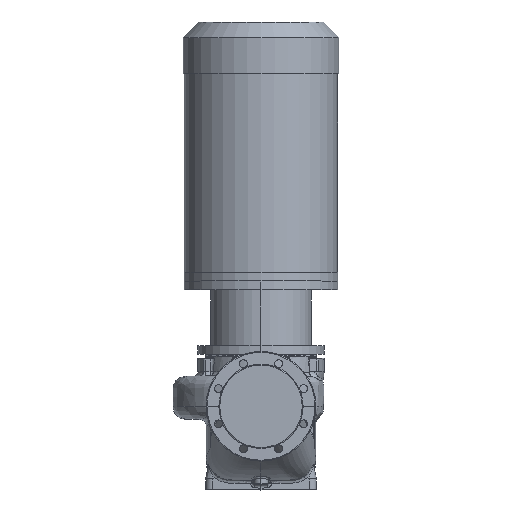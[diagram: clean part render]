
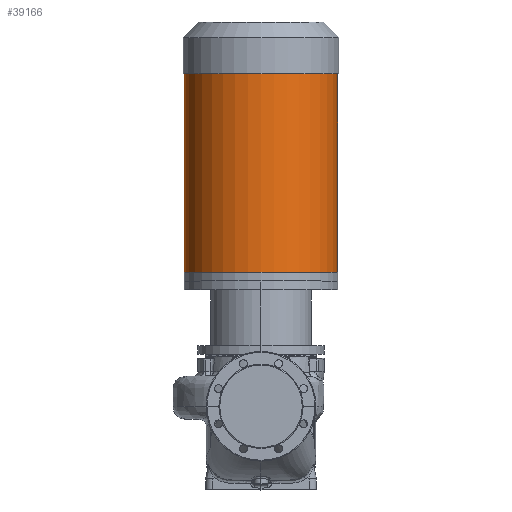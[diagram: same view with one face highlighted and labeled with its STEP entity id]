
A CAD part, top view. The second image highlights one B-rep face of the part: STEP entity #39166.
In plain terms, the highlighted cylindrical face has radius 174.5 mm (diameter 349 mm), a partial arc.
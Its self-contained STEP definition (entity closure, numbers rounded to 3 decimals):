
#31 = CARTESIAN_POINT ( 'NONE',  ( -174.5, 285.8, 0. ) ) ;
#192 = FACE_OUTER_BOUND ( 'NONE', #45321, .T. ) ;
#320 = ORIENTED_EDGE ( 'NONE', *, *, #25603, .F. ) ;
#3253 = LINE ( 'NONE', #31, #44242 ) ;
#4375 = CARTESIAN_POINT ( 'NONE',  ( 174.5, 305.8, 0. ) ) ;
#7132 = CARTESIAN_POINT ( 'NONE',  ( 174.5, 757.8, 0. ) ) ;
#9235 = VERTEX_POINT ( 'NONE', #29655 ) ;
#9436 = DIRECTION ( 'NONE',  ( 0., -1., 0. ) ) ;
#10882 = LINE ( 'NONE', #25033, #47429 ) ;
#17424 = VERTEX_POINT ( 'NONE', #7132 ) ;
#18461 = EDGE_CURVE ( 'NONE', #17424, #9235, #37529, .T. ) ;
#22086 = CARTESIAN_POINT ( 'NONE',  ( 0., 305.8, 0. ) ) ;
#24029 = CYLINDRICAL_SURFACE ( 'NONE', #39465, 174.5 ) ;
#24622 = DIRECTION ( 'NONE',  ( 0., -1., 0. ) ) ;
#25033 = CARTESIAN_POINT ( 'NONE',  ( 174.5, 285.8, 0. ) ) ;
#25603 = EDGE_CURVE ( 'NONE', #50325, #47923, #51546, .T. ) ;
#25778 = DIRECTION ( 'NONE',  ( 0., -1., 0. ) ) ;
#27118 = DIRECTION ( 'NONE',  ( 0., -1., 0. ) ) ;
#29655 = CARTESIAN_POINT ( 'NONE',  ( -174.5, 757.8, 0. ) ) ;
#30350 = DIRECTION ( 'NONE',  ( -1., 0., 0. ) ) ;
#32264 = DIRECTION ( 'NONE',  ( -1., 0., 0. ) ) ;
#32980 = AXIS2_PLACEMENT_3D ( 'NONE', #55700, #27118, #60059 ) ;
#35193 = ORIENTED_EDGE ( 'NONE', *, *, #44060, .F. ) ;
#37529 = CIRCLE ( 'NONE', #32980, 174.5 ) ;
#39166 = ADVANCED_FACE ( 'NONE', ( #192 ), #24029, .T. ) ;
#39465 = AXIS2_PLACEMENT_3D ( 'NONE', #54574, #25778, #30350 ) ;
#41189 = ORIENTED_EDGE ( 'NONE', *, *, #18461, .T. ) ;
#44060 = EDGE_CURVE ( 'NONE', #17424, #50325, #10882, .T. ) ;
#44242 = VECTOR ( 'NONE', #9436, 1000. ) ;
#44989 = CARTESIAN_POINT ( 'NONE',  ( -174.5, 305.8, 0. ) ) ;
#45321 = EDGE_LOOP ( 'NONE', ( #35193, #41189, #57457, #320 ) ) ;
#47429 = VECTOR ( 'NONE', #24622, 1000. ) ;
#47565 = EDGE_CURVE ( 'NONE', #9235, #47923, #3253, .T. ) ;
#47923 = VERTEX_POINT ( 'NONE', #44989 ) ;
#50325 = VERTEX_POINT ( 'NONE', #4375 ) ;
#51546 = CIRCLE ( 'NONE', #61431, 174.5 ) ;
#54574 = CARTESIAN_POINT ( 'NONE',  ( 0., 285.8, 0. ) ) ;
#55700 = CARTESIAN_POINT ( 'NONE',  ( 0., 757.8, 0. ) ) ;
#57457 = ORIENTED_EDGE ( 'NONE', *, *, #47565, .T. ) ;
#60059 = DIRECTION ( 'NONE',  ( -1., 0., 0. ) ) ;
#60852 = DIRECTION ( 'NONE',  ( 0., -1., 0. ) ) ;
#61431 = AXIS2_PLACEMENT_3D ( 'NONE', #22086, #60852, #32264 ) ;
